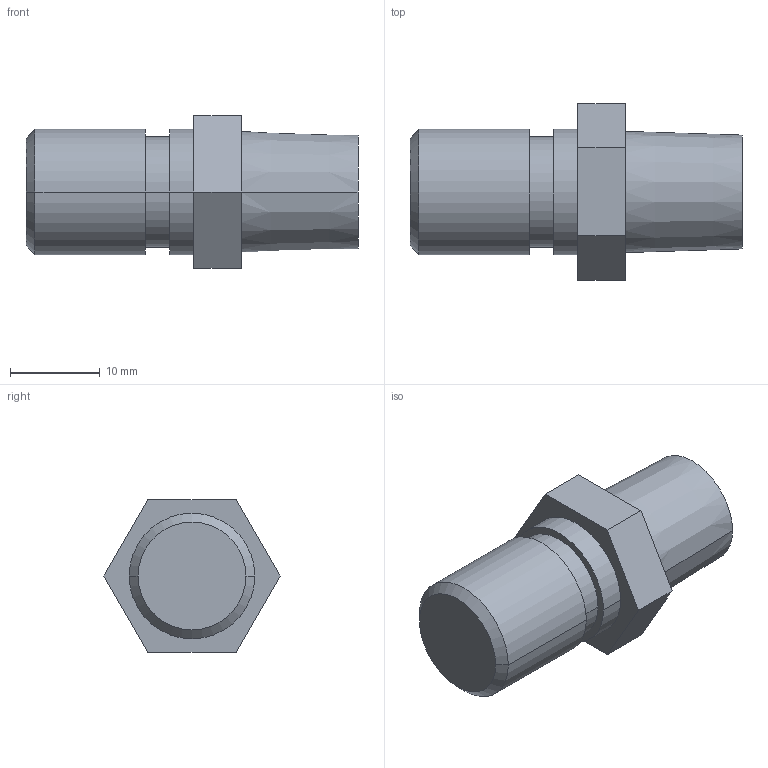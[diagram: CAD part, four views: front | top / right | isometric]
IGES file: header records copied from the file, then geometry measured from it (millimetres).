
Global section: file name: No Iges File Name specified; native system: Autodesk Inventor 2009; preprocessor: AutoDesk Inventor Iges Exporter R2009; author: y-shimohigashi; date: 20080704.134355; units: millimetre
Bounding box: 37 x 19.63 x 17 mm (x, y, z)
Volume: 5840.4 mm3; surface area: 2182.2 mm2
Topology: 1 solids, 1 shells, 22 faces, 46 edges, 30 vertices
Faces by surface type: plane 12, cylinder 6, cone 4
